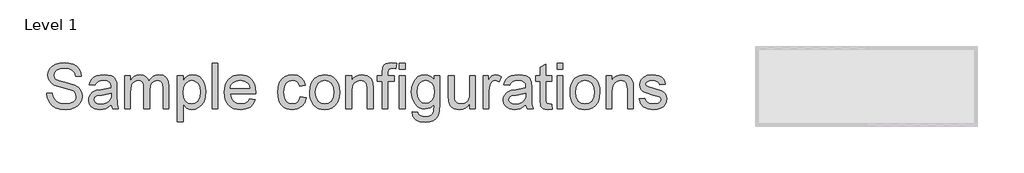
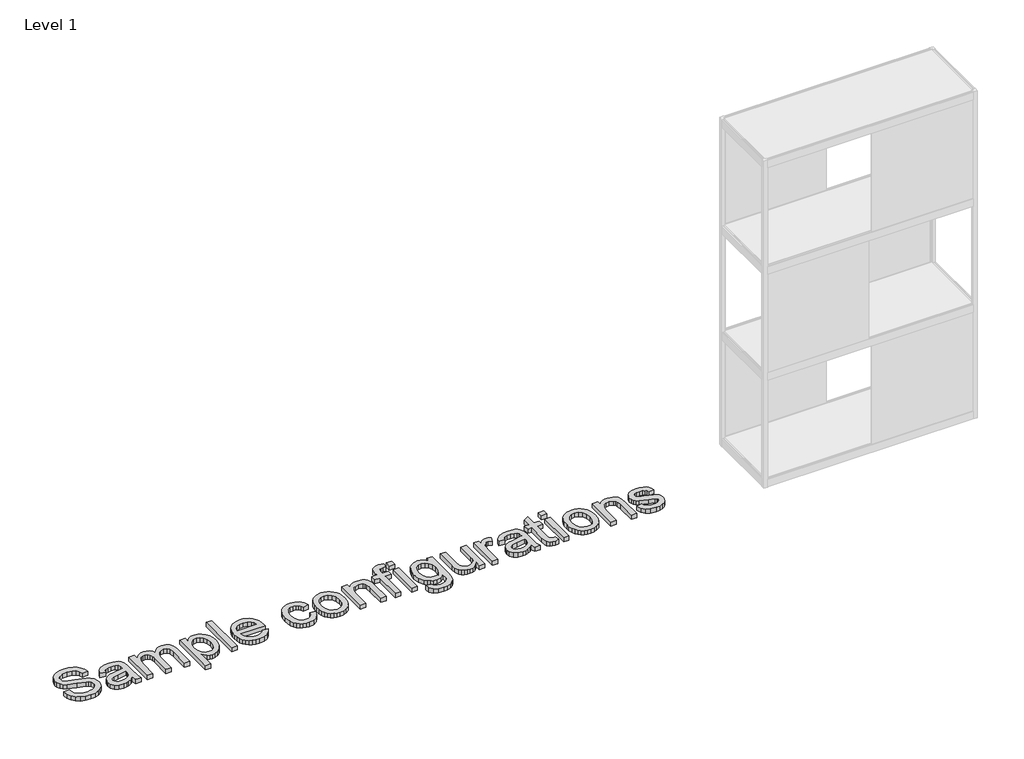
# One storey, part 2 of 5: 1 proxy.
"""IFC4 building model written with IfcOpenShell, lengths in millimetres."""

import ifcopenshell
import ifcopenshell.guid

model = None  # the IFC model being written
_history = None  # IfcOwnerHistory: only IFC2X3 demands one
_inside = {}  # id of a spatial element -> (the spatial element, [elements in it])
_under = {}  # id of a project, library or spatial element -> (it, [spatial elements below it])
_declared = {}  # id of a project -> (the project, [libraries it declares])
_typed = {}  # id of a type object -> (the type object, [elements of that type])
_made_of = {}  # id of a material, layer set ... -> (it, [elements and type objects made of it])


def new_model(schema):
    """Start an empty IFC model of exactly this schema.

    Asked for "IFC4X3", IfcOpenShell would pick the latest addendum, in which some entities
    have other attributes; the version numbers below select the first issue.
    IFC2X3 requires an IfcOwnerHistory on every rooted entity: one is made here for all.
    """
    global model, _history
    if schema == "IFC4X3":
        model = ifcopenshell.file(schema_version=(4, 3, 0, 0))
    else:
        model = ifcopenshell.file(schema=schema)
    _inside.clear()
    _under.clear()
    _declared.clear()
    _typed.clear()
    _made_of.clear()
    _history = None
    if model.schema == "IFC2X3":
        org = make("IfcOrganization", Name="unknown")
        user = make(
            "IfcPersonAndOrganization",
            ThePerson=make("IfcPerson", FamilyName="unknown"),
            TheOrganization=org,
        )
        app = make(
            "IfcApplication",
            ApplicationDeveloper=org,
            Version="unknown",
            ApplicationFullName="unknown",
            ApplicationIdentifier="unknown",
        )
        _history = make(
            "IfcOwnerHistory",
            OwningUser=user,
            OwningApplication=app,
            ChangeAction="ADDED",
            CreationDate=0,
        )
    return model


def make(cls, **values):
    """One entity of the class cls with the attributes given. An attribute that is None is left unset."""
    return model.create_entity(
        cls, **{name: value for name, value in values.items() if value is not None}
    )


def rooted(cls, **values):
    """An entity with a GlobalId (a new one), such as an element, a storey or a relation."""
    return make(cls, GlobalId=ifcopenshell.guid.new(), OwnerHistory=_history, **values)


def si_unit(unit_type, name, prefix=None):
    """IfcSIUnit, for example si_unit("LENGTHUNIT", "METRE", prefix="MILLI")."""
    return make("IfcSIUnit", UnitType=unit_type, Prefix=prefix, Name=name)


def assignment(units):
    """IfcUnitAssignment: the units of a project."""
    return None if units is None else make("IfcUnitAssignment", Units=units)


def point(xyz):
    """IfcCartesianPoint."""
    return None if xyz is None else make("IfcCartesianPoint", Coordinates=xyz)


def direction(xyz):
    """IfcDirection."""
    return None if xyz is None else make("IfcDirection", DirectionRatios=xyz)


def frame(location, z_axis=None, x_axis=None):
    """IfcAxis2Placement3D, a coordinate frame: its origin and axes. An axis left out is left unset."""
    return make(
        "IfcAxis2Placement3D",
        Location=point(location),
        Axis=direction(z_axis),
        RefDirection=direction(x_axis),
    )


def origin():
    """The frame at (0, 0, 0) with its axes left unset."""
    return frame((0.0, 0.0, 0.0))


def origin_with_axes():
    """The frame at (0, 0, 0) with the z axis (0, 0, 1) and the x axis (1, 0, 0) written out."""
    return frame((0.0, 0.0, 0.0), z_axis=(0.0, 0.0, 1.0), x_axis=(1.0, 0.0, 0.0))


def place(relative_to, where):
    """IfcLocalPlacement: puts the frame where relative to a parent placement (None: the world)."""
    return make(
        "IfcLocalPlacement", PlacementRelTo=relative_to, RelativePlacement=where
    )


def context(
    kind, dimensions, precision=None, world=None, true_north=None, identifier=None
):
    """IfcGeometricRepresentationContext, for example the 3D "Model" context."""
    return make(
        "IfcGeometricRepresentationContext",
        ContextIdentifier=identifier,
        ContextType=kind,
        CoordinateSpaceDimension=dimensions,
        Precision=precision,
        WorldCoordinateSystem=world,
        TrueNorth=true_north,
    )


def project(units=None, contexts=None):
    """IfcProject with its units and contexts."""
    return rooted(
        "IfcProject",
        Name="project",
        RepresentationContexts=contexts,
        UnitsInContext=assignment(units),
    )


def spatial(cls, under=None, at=None, **own):
    """A site, building, storey or space (cls), placed at a placement, below another one or the project."""
    s = rooted(cls, ObjectPlacement=at, **own)
    if under is not None:
        _under.setdefault(under.id(), (under, []))[1].append(s)
    return s


def polyline(points):
    """IfcPolyline through the points."""
    return make("IfcPolyline", Points=[point(p) for p in points])


def outline(outer, holes=None, kind="AREA"):
    """IfcArbitraryClosedProfileDef: a profile drawn as a closed curve; with holes, ...WithVoids."""
    if holes is None:
        return make("IfcArbitraryClosedProfileDef", ProfileType=kind, OuterCurve=outer)
    return make(
        "IfcArbitraryProfileDefWithVoids",
        ProfileType=kind,
        OuterCurve=outer,
        InnerCurves=holes,
    )


def extrude(swept, where, along, depth):
    """IfcExtrudedAreaSolid: the profile swept, set in the frame where, extruded along a direction by depth."""
    return make(
        "IfcExtrudedAreaSolid",
        SweptArea=swept,
        Position=where,
        ExtrudedDirection=direction(along),
        Depth=depth,
    )


def shape(context_of_items, identifier, shape_type, items):
    """IfcShapeRepresentation: the items that make up one representation, for example the "Body"."""
    return make(
        "IfcShapeRepresentation",
        ContextOfItems=context_of_items,
        RepresentationIdentifier=identifier,
        RepresentationType=shape_type,
        Items=items,
    )


def made_of(thing, what):
    """Note that an element or type object is made of a material, layer set ...; save() writes the relation."""
    if what is not None:
        _made_of.setdefault(what.id(), (what, []))[1].append(thing)
    return thing


def element(
    cls,
    number,
    at=None,
    inside=None,
    cuts=None,
    type_object=None,
    material=None,
    context=None,
    identifier="Body",
    shape_type=None,
    held_by="IfcProductDefinitionShape",
    body=None,
    shapes=None,
    **own,
):
    """One element of the class cls, such as IfcWall. Its Tag is "e" and its number.

    at: its placement. inside: the storey or other place that contains it. cuts: it is an
    opening in that element (IfcRelVoidsElement). A single representation is given by context,
    identifier, shape_type and body (its items); several are given by shapes. held_by: the class
    of the entity that holds the representations. save() writes the other relations.
    """
    e = rooted(cls, Tag="e%d" % number, ObjectPlacement=at, **own)
    if body is not None:
        shapes = [shape(context, identifier, shape_type, body)]
    if shapes is not None:
        e.Representation = make(held_by, Representations=shapes)
    if inside is not None:
        _inside.setdefault(inside.id(), (inside, []))[1].append(e)
    if cuts is not None:
        rooted(
            "IfcRelVoidsElement", RelatingBuildingElement=cuts, RelatedOpeningElement=e
        )
    if type_object is not None:
        _typed.setdefault(type_object.id(), (type_object, []))[1].append(e)
    return made_of(e, material)


def aggregate(whole, parts):
    """IfcRelAggregates: a whole, such as a stair, and the parts it consists of."""
    return rooted("IfcRelAggregates", RelatingObject=whole, RelatedObjects=parts)


def save(model, path):
    """Write the relations noted so far, then the file.

    IfcRelAggregates (storeys below a building ...), IfcRelContainedInSpatialStructure (elements
    in a storey), IfcRelDefinesByType, IfcRelAssociatesMaterial and IfcRelDeclares: one each for
    every whole, place, type object, material and project.
    """
    for whole, parts in _under.values():
        aggregate(whole, parts)
    for where, things in _inside.values():
        rooted(
            "IfcRelContainedInSpatialStructure",
            RelatedElements=things,
            RelatingStructure=where,
        )
    for kind, things in _typed.values():
        rooted("IfcRelDefinesByType", RelatedObjects=things, RelatingType=kind)
    for what, things in _made_of.values():
        rooted("IfcRelAssociatesMaterial", RelatedObjects=things, RelatingMaterial=what)
    for by, libraries in _declared.values():
        rooted("IfcRelDeclares", RelatingContext=by, RelatedDefinitions=libraries)
    model.write(path)


model = new_model("IFC4")

# Units and contexts
model_context = context("Model", 3, world=origin())
ifc_project = project(units=[si_unit("LENGTHUNIT", "METRE", prefix="MILLI")], contexts=[model_context])

# Site, building, storey
site = spatial("IfcSite", under=ifc_project)
building = spatial("IfcBuilding", under=site)
storey = spatial("IfcBuildingStorey", under=building, Name="Level 1", Elevation=0.0)

# Proxy
placement = place(None, origin())
element("IfcBuildingElementProxy", 1, Name="24\" Arial", ObjectType="24\" Arial", at=placement, inside=storey, context=model_context, shape_type="SweptSolid", body=[
    extrude(outline(polyline([(-17651.1280918, -1837.5746399), (-17619.8665533, -1837.5746399), (-17616.2794139, -1854.9226567), (-17609.7920341, -1868.8667072), (-17599.6717216, -1879.9334139), (-17585.1857841, -1888.6493995), (-17567.4790533, -1894.3048682), (-17547.696361, -1896.1900245), (-17530.2796543, -1894.7628009), (-17515.0304956, -1890.4811303), (-17502.6739451, -1883.7037264), (-17493.9350629, -1874.7893033), (-17488.7375269, -1864.5545077), (-17487.0050149, -1853.815986), (-17492.1949187, -1834.3080533), (-17500.1018899, -1826.5918875), (-17513.4429956, -1820.1121399), (-17558.9615052, -1808.175361), (-17607.9603033, -1792.7582937), (-17623.5223826, -1782.2411062), (-17634.5509283, -1769.495313), (-17641.1222624, -1754.7956735), (-17643.3127072, -1738.4169476), (-17640.6032721, -1720.1072721), (-17632.4749668, -1703.0340149), (-17619.1414932, -1688.5633418), (-17600.8165533, -1678.0614187), (-17578.8205197, -1671.6732577), (-17554.4737649, -1669.5438707), (-17528.0968418, -1671.7724764), (-17505.0170341, -1678.4582937), (-17486.0586206, -1689.4639428), (-17472.0458802, -1704.6520437), (-17463.1772504, -1723.0762024), (-17459.6511687, -1743.7900245), (-17490.9127072, -1743.7900245), (-17496.6521302, -1725.1368995), (-17508.6194379, -1711.6736783), (-17527.3183562, -1703.5224764), (-17553.252611, -1700.8054091), (-17579.7974427, -1703.4919476), (-17598.0078995, -1711.551563), (-17608.5403514, -1723.4120197), (-17612.0511687, -1737.5010822), (-17609.5630677, -1749.5141832), (-17602.0987649, -1759.176563), (-17584.4530918, -1767.8162264), (-17551.0545341, -1776.639063), (-17495.7362649, -1792.3308899), (-17477.9150509, -1803.6723562), (-17465.4821783, -1817.6698322), (-17458.1781519, -1834.1706735), (-17455.7434764, -1853.022236), (-17458.544498, -1872.2935702), (-17466.9475629, -1890.4200726), (-17480.6092216, -1906.020313), (-17499.1860245, -1917.712861), (-17521.5255076, -1925.0168875), (-17546.4752072, -1927.451563), (-17577.1032721, -1924.8260822), (-17602.3124668, -1916.9496399), (-17622.3928153, -1903.7917072), (-17637.6343418, -1885.3217553), (-17647.418837, -1862.8219957), (-17651.1280918, -1837.5746399)])), origin_with_axes(), (0.0, 0.0, 1.0), 25.4),
    extrude(outline(polyline([(-17295.5280918, -1900.0977168), (-17310.4643298, -1912.9045678), (-17325.843236, -1921.284736), (-17342.0158923, -1925.9098562), (-17359.3333802, -1927.451563), (-17385.4584403, -1923.7423082), (-17404.7297745, -1912.6145437), (-17416.6131278, -1895.7168274), (-17420.5742456, -1874.6977168), (-17419.0783322, -1861.7382216), (-17414.5905918, -1849.9693514), (-17398.868236, -1832.0183899), (-17376.9790533, -1821.7606976), (-17349.9304956, -1817.0592553), (-17295.7112649, -1806.3131014), (-17295.5280918, -1799.3525245), (-17297.6803754, -1785.4008418), (-17304.1372264, -1776.2727168), (-17318.5773706, -1769.495313), (-17338.6958802, -1767.2361783), (-17357.3184764, -1768.739724), (-17370.3237649, -1773.250361), (-17379.1923947, -1781.5923682), (-17385.4050149, -1794.5900245), (-17416.6665533, -1790.6823322), (-17411.2400509, -1773.5861783), (-17403.1422745, -1760.153486), (-17391.617635, -1749.8805293), (-17375.9105437, -1742.2635822), (-17356.7002673, -1737.5468755), (-17334.6660725, -1735.9746399), (-17313.5324788, -1737.3637024), (-17296.7797745, -1741.5308899), (-17284.1484644, -1747.7969356), (-17275.3790533, -1755.4825726), (-17265.7929956, -1776.7001207), (-17264.2665533, -1804.0539668), (-17264.2665533, -1842.9477168), (-17262.6790533, -1897.2585341), (-17256.4511687, -1923.5438707), (-17287.7127072, -1923.5438707), (-17295.5280918, -1900.0977168)]), holes=[polyline([(-17295.5280918, -1837.5746399), (-17345.9617456, -1847.1606976), (-17372.8576591, -1852.228486), (-17385.0386687, -1860.4712745), (-17389.3127072, -1872.4996399), (-17386.9848826, -1881.7956735), (-17380.0014091, -1889.4126207), (-17368.5149307, -1894.4956735), (-17352.6780918, -1896.1900245), (-17335.8872264, -1894.3201327), (-17321.0502072, -1888.7104572), (-17309.0218418, -1880.4447721), (-17300.6569379, -1870.6068514), (-17296.9476831, -1860.4712745), (-17295.7112649, -1846.4280053), (-17295.5280918, -1837.5746399)])]), origin_with_axes(), (0.0, 0.0, 1.0), 25.4),
    extrude(outline(polyline([(-17221.2819379, -1923.5438707), (-17221.2819379, -1739.8823322), (-17190.0203995, -1739.8823322), (-17190.0203995, -1770.1058899), (-17180.6175149, -1756.2228971), (-17168.5280918, -1745.3469957), (-17154.1642697, -1738.3177288), (-17137.9381879, -1735.9746399), (-17120.55201, -1738.3635221), (-17106.6155918, -1745.5301687), (-17096.2052552, -1757.0013827), (-17089.3973225, -1772.3039668), (-17078.0024307, -1756.4098863), (-17065.0047745, -1745.0569716), (-17050.4043538, -1738.2452228), (-17034.2011687, -1735.9746399), (-17010.7015894, -1739.7525846), (-16993.3230437, -1751.0864187), (-16982.5845221, -1770.2814307), (-16979.0050149, -1797.6429091), (-16979.0050149, -1923.5438707), (-17010.2665533, -1923.5438707), (-17010.2665533, -1811.0756014), (-17013.1667937, -1784.973438), (-17023.6687168, -1772.1207937), (-17041.5280918, -1767.2361783), (-17058.4639692, -1770.3653851), (-17072.2706399, -1779.7530053), (-17081.4521903, -1796.0401447), (-17084.5127072, -1819.8679091), (-17084.5127072, -1923.5438707), (-17115.7742456, -1923.5438707), (-17115.7742456, -1807.595313), (-17117.5830798, -1789.919111), (-17123.0095822, -1777.3106976), (-17132.5574788, -1769.7548082), (-17146.7304956, -1767.2361783), (-17158.7741254, -1768.9152649), (-17169.871361, -1773.9525245), (-17179.0300149, -1782.2258418), (-17185.2578995, -1793.6131014), (-17190.0203995, -1830.9193514), (-17190.0203995, -1923.5438707), (-17221.2819379, -1923.5438707)])), origin_with_axes(), (0.0, 0.0, 1.0), 25.4),
    extrude(outline(polyline([(-16932.1127072, -1993.8823322), (-16932.1127072, -1739.8823322), (-16900.8511687, -1739.8823322), (-16900.8511687, -1770.5332937), (-16890.6545341, -1755.4138827), (-16879.2367456, -1744.6143033), (-16865.9261687, -1738.1345557), (-16850.0511687, -1735.9746399), (-16828.9099427, -1738.9969957), (-16810.4247264, -1748.064063), (-16795.3740052, -1762.6263226), (-16784.5362649, -1782.1342553), (-16777.9878274, -1805.1682697), (-16775.8050149, -1830.3087745), (-16778.2702192, -1857.0444115), (-16785.6658322, -1880.9561303), (-16797.7552552, -1900.8304091), (-16814.3018899, -1915.4537264), (-16833.573224, -1924.4521038), (-16853.8367456, -1927.451563), (-16868.2081999, -1925.4442913), (-16881.0379475, -1919.4224764), (-16900.8511687, -1899.1207937), (-16900.8511687, -1993.8823322), (-16932.1127072, -1993.8823322)]), holes=[polyline([(-16900.8511687, -1833.178486), (-16897.470099, -1861.2039668), (-16887.3268899, -1880.803486), (-16872.360123, -1892.3433899), (-16854.5083802, -1896.1900245), (-16836.3666134, -1892.2060101), (-16821.018236, -1880.2539668), (-16810.554474, -1859.9370197), (-16807.0665533, -1830.8582937), (-16810.4705197, -1802.9854572), (-16820.6824187, -1783.1111783), (-16835.6262889, -1771.2049283), (-16853.2261687, -1767.2361783), (-16870.8947384, -1771.4567913), (-16886.4110245, -1784.1186303), (-16897.2411326, -1804.8248202), (-16900.8511687, -1833.178486)])]), origin_with_axes(), (0.0, 0.0, 1.0), 25.4),
    extrude(outline(polyline([(-16740.6357841, -1923.5438707), (-16740.6357841, -1673.451563), (-16709.3742456, -1673.451563), (-16709.3742456, -1923.5438707), (-16740.6357841, -1923.5438707)])), origin_with_axes(), (0.0, 0.0, 1.0), 25.4),
    extrude(outline(polyline([(-16533.8944379, -1868.8361783), (-16503.2434764, -1872.7438707), (-16514.2872865, -1895.8389428), (-16531.9100629, -1913.1030053), (-16555.7149307, -1923.8644235), (-16585.3050149, -1927.451563), (-16604.7022805, -1925.9041321), (-16621.9854235, -1921.2618394), (-16637.1544439, -1913.524685), (-16650.2093418, -1902.6926687), (-16660.7074487, -1889.0672631), (-16668.2060966, -1872.9499404), (-16672.7052853, -1854.3407006), (-16674.2050149, -1833.2395437), (-16672.6900209, -1811.422867), (-16668.1450389, -1792.1935101), (-16660.5700689, -1775.5514728), (-16649.965111, -1761.4967553), (-16636.9445581, -1750.3308298), (-16622.1228033, -1742.3551687), (-16605.4998466, -1737.5697721), (-16587.0756879, -1735.9746399), (-16569.2449337, -1737.565956), (-16553.1199788, -1742.3399043), (-16538.7008231, -1750.2964848), (-16525.9874668, -1761.4356976), (-16515.6095671, -1775.4598863), (-16508.1967817, -1792.0713947), (-16503.7491104, -1811.2702228), (-16502.2665533, -1833.0563707), (-16502.4497264, -1841.4823322), (-16642.9434764, -1841.4823322), (-16637.5322384, -1864.8826928), (-16624.961986, -1882.0856976), (-16606.8202192, -1892.6639428), (-16584.6944379, -1896.1900245), (-16568.0562168, -1894.5567312), (-16554.0434764, -1889.6568514), (-16542.6562168, -1881.1850966), (-16533.8944379, -1868.8361783)]), holes=[polyline([(-16642.9434764, -1810.2207937), (-16533.5280918, -1810.2207937), (-16537.756337, -1793.704688), (-16546.0449187, -1781.8900245), (-16564.2706399, -1770.8996399), (-16587.1978033, -1767.2361783), (-16608.2703394, -1770.1593154), (-16625.6946783, -1778.9287264), (-16637.806998, -1792.5980173), (-16642.9434764, -1810.2207937)])]), origin_with_axes(), (0.0, 0.0, 1.0), 25.4),
    extrude(outline(polyline([(-16256.0819379, -1857.1131014), (-16224.8203995, -1861.0207937), (-16233.536385, -1888.8249404), (-16249.915111, -1909.8364187), (-16272.4148706, -1923.0477769), (-16299.4939572, -1927.451563), (-16317.0270551, -1925.9155804), (-16332.7475028, -1921.3076327), (-16346.6553003, -1913.6277198), (-16358.7504475, -1902.8758418), (-16368.5406669, -1889.2542523), (-16375.5336807, -1872.9652048), (-16381.1280918, -1832.384736), (-16378.7392096, -1804.565325), (-16371.5725629, -1780.4551687), (-16359.5136687, -1760.9853971), (-16342.4480437, -1747.0871399), (-16322.0318778, -1738.7527649), (-16299.921361, -1735.9746399), (-16273.5062769, -1739.7907457), (-16252.3879475, -1751.239063), (-16237.2380076, -1769.7090149), (-16228.7280918, -1794.5900245), (-16259.9896302, -1798.4977168), (-16265.6603634, -1784.8589548), (-16274.4908322, -1775.0820918), (-16285.9925749, -1769.1976567), (-16299.6771302, -1767.2361783), (-16319.8795942, -1771.0980774), (-16335.9148706, -1782.6837745), (-16346.3786326, -1802.619111), (-16349.8665533, -1831.5299283), (-16346.4549548, -1860.8299884), (-16336.2201591, -1880.8340149), (-16320.4749067, -1892.3510221), (-16300.5319379, -1896.1900245), (-16284.3440173, -1893.7935101), (-16271.0716014, -1886.6039668), (-16261.4168538, -1874.4382216), (-16256.0819379, -1857.1131014)])), origin_with_axes(), (0.0, 0.0, 1.0), 25.4),
    extrude(outline(polyline([(-16205.2819379, -1831.7131014), (-16203.5914031, -1807.9273142), (-16198.5197985, -1787.4310101), (-16190.0671242, -1770.2241892), (-16178.2333802, -1756.3068514), (-16153.1691975, -1741.0576928), (-16123.1593418, -1735.9746399), (-16105.9124518, -1737.5220708), (-16090.3179355, -1742.1643634), (-16076.3757931, -1749.9015179), (-16064.0860245, -1760.7335341), (-16054.0553905, -1774.294066), (-16046.8906519, -1790.2167673), (-16042.5918087, -1808.5016381), (-16041.158861, -1829.1486783), (-16043.6927552, -1860.7307697), (-16051.2944379, -1884.772236), (-16063.7425749, -1902.7766231), (-16080.8158322, -1916.2474764), (-16101.0946182, -1924.6505413), (-16123.1593418, -1927.451563), (-16140.6580948, -1925.9098562), (-16156.397623, -1921.284736), (-16170.3779265, -1913.5762024), (-16182.5990052, -1902.7842553), (-16192.5227883, -1889.0920678), (-16199.6112048, -1872.682813), (-16203.8642546, -1853.5564908), (-16205.2819379, -1831.7131014)]), holes=[polyline([(-16174.0203995, -1831.6520437), (-16170.4027312, -1859.9446519), (-16159.5497264, -1880.1013226), (-16143.2167937, -1892.167849), (-16123.1593418, -1896.1900245), (-16103.1934764, -1892.1449524), (-16086.8910725, -1880.009736), (-16076.0380677, -1859.585938), (-16072.4203995, -1830.6751207), (-16076.0609644, -1803.2067913), (-16086.9826591, -1783.3248803), (-16103.3079596, -1771.2583538), (-16123.1593418, -1767.2361783), (-16143.2167937, -1771.2430894), (-16159.5497264, -1783.2638226), (-16170.4027312, -1803.3747), (-16174.0203995, -1831.6520437)])]), origin_with_axes(), (0.0, 0.0, 1.0), 25.4),
    extrude(outline(polyline([(-16005.9896302, -1923.5438707), (-16005.9896302, -1739.8823322), (-15974.7280918, -1739.8823322), (-15974.7280918, -1765.526563), (-15963.8674548, -1752.5975966), (-15950.8240052, -1743.3626207), (-15935.5977432, -1737.8216351), (-15918.1886687, -1735.9746399), (-15888.6672745, -1741.9277649), (-15876.8984043, -1748.8120197), (-15868.518236, -1757.5585341), (-15859.1458802, -1780.5467553), (-15857.4973225, -1810.770313), (-15857.4973225, -1923.5438707), (-15888.758861, -1923.5438707), (-15888.758861, -1814.9832937), (-15892.3612649, -1787.3241591), (-15897.345099, -1779.0890029), (-15905.0917937, -1772.7008418), (-15926.5535725, -1767.2361783), (-15944.863248, -1770.3043274), (-15960.4711206, -1779.5087745), (-15971.163849, -1797.2918274), (-15974.7280918, -1826.0957937), (-15974.7280918, -1923.5438707), (-16005.9896302, -1923.5438707)])), origin_with_axes(), (0.0, 0.0, 1.0), 25.4),
    extrude(outline(polyline([(-15806.6973225, -1923.5438707), (-15806.6973225, -1771.1438707), (-15834.0511687, -1771.1438707), (-15834.0511687, -1739.8823322), (-15806.6973225, -1739.8823322), (-15806.6973225, -1721.3818514), (-15803.4002072, -1695.3102168), (-15797.1112649, -1684.9151447), (-15787.4030918, -1676.6876207), (-15773.8177552, -1671.3298082), (-15755.8973225, -1669.5438707), (-15727.3833802, -1672.9631014), (-15731.9627072, -1702.2707937), (-15749.9747264, -1700.8054091), (-15761.8580798, -1702.1028851), (-15769.6658322, -1705.995313), (-15773.9932961, -1713.429087), (-15775.4357841, -1725.3506014), (-15775.4357841, -1739.8823322), (-15740.2665533, -1739.8823322), (-15740.2665533, -1771.1438707), (-15775.4357841, -1771.1438707), (-15775.4357841, -1923.5438707), (-15806.6973225, -1923.5438707)])), origin_with_axes(), (0.0, 0.0, 1.0), 25.4),
    extrude(outline(polyline([(-15712.9127072, -1923.5438707), (-15712.9127072, -1739.8823322), (-15681.6511687, -1739.8823322), (-15681.6511687, -1923.5438707), (-15712.9127072, -1923.5438707)])), origin_with_axes(), (0.0, 0.0, 1.0), 25.4),
    extrude(outline(polyline([(-15712.9127072, -1704.7131014), (-15712.9127072, -1673.451563), (-15681.6511687, -1673.451563), (-15681.6511687, -1704.7131014), (-15712.9127072, -1704.7131014)])), origin_with_axes(), (0.0, 0.0, 1.0), 25.4),
    extrude(outline(polyline([(-15642.5742456, -1939.1746399), (-15611.3127072, -1943.0823322), (-15607.8629475, -1952.851563), (-15601.1771302, -1959.5679091), (-15588.034462, -1964.7883418), (-15570.8314572, -1966.528486), (-15552.4836206, -1964.5593755), (-15538.8372264, -1958.6520437), (-15529.3732841, -1949.1881014), (-15523.5728033, -1936.5491591), (-15521.4357841, -1900.0977168), (-15543.4470822, -1917.6823322), (-15570.2819379, -1923.5438707), (-15587.421977, -1921.8380714), (-15602.5127673, -1916.7206735), (-15615.5543087, -1908.1916771), (-15626.5466014, -1896.2510822), (-15641.4981038, -1866.2412264), (-15646.4819379, -1830.797236), (-15644.2456999, -1805.5575125), (-15637.536986, -1782.3479572), (-15626.5923947, -1762.6797481), (-15611.6485245, -1748.064063), (-15593.2167336, -1738.9969957), (-15571.8083802, -1735.9746399), (-15557.188879, -1737.6842553), (-15543.9202793, -1742.8131014), (-15532.002581, -1751.3611783), (-15521.4357841, -1763.328486), (-15521.4357841, -1739.8823322), (-15490.1742456, -1739.8823322), (-15490.1742456, -1898.4491591), (-15492.3112649, -1935.0608779), (-15498.7223225, -1959.1710341), (-15509.7661326, -1975.1605173), (-15525.8014091, -1987.4102168), (-15546.4770701, -1995.1950726), (-15571.4420341, -1997.7900245), (-15600.5283923, -1994.1341952), (-15623.4326591, -1983.1667072), (-15638.1246663, -1964.8570317), (-15642.5742456, -1939.1746399)]), holes=[polyline([(-15615.2203995, -1828.6602168), (-15611.885123, -1857.3344356), (-15601.8792937, -1877.048438), (-15586.8362048, -1888.4738586), (-15568.3891495, -1892.2823322), (-15550.079474, -1888.4967553), (-15534.9600629, -1877.1400245), (-15524.8168538, -1857.6778851), (-15521.4357841, -1829.5760822), (-15524.9160725, -1802.474099), (-15535.3569379, -1782.9585341), (-15550.6976831, -1771.1667673), (-15568.877611, -1767.2361783), (-15586.7293538, -1771.1057096), (-15601.6961206, -1782.7143033), (-15611.8393298, -1801.9398442), (-15615.2203995, -1828.6602168)])]), origin_with_axes(), (0.0, 0.0, 1.0), 25.4),
    extrude(outline(polyline([(-15326.0511687, -1923.5438707), (-15326.0511687, -1891.9770437), (-15337.3621062, -1907.4971459), (-15350.5353033, -1918.5829332), (-15365.57076, -1925.2344055), (-15382.4684764, -1927.451563), (-15397.6947384, -1925.8945918), (-15411.8677552, -1921.2236783), (-15423.7587408, -1914.2020437), (-15432.1389091, -1905.5929091), (-15441.4502072, -1882.5741591), (-15443.2819379, -1853.5106976), (-15443.2819379, -1739.8823322), (-15412.0203995, -1739.8823322), (-15412.0203995, -1838.7957937), (-15410.127611, -1870.6679091), (-15405.5711807, -1881.2995798), (-15397.7634283, -1889.3820918), (-15387.2233442, -1894.4880413), (-15374.4699187, -1896.1900245), (-15360.9838009, -1894.4498803), (-15348.3677552, -1889.2294476), (-15337.9650509, -1881.0095557), (-15331.1189572, -1870.2710341), (-15327.3181158, -1855.5637625), (-15326.0511687, -1835.4376207), (-15326.0511687, -1739.8823322), (-15294.7896302, -1739.8823322), (-15294.7896302, -1923.5438707), (-15326.0511687, -1923.5438707)])), origin_with_axes(), (0.0, 0.0, 1.0), 25.4),
    extrude(outline(polyline([(-15251.8050149, -1923.5438707), (-15251.8050149, -1739.8823322), (-15224.4511687, -1739.8823322), (-15224.4511687, -1767.0530053), (-15214.3461206, -1751.3001207), (-15205.0348225, -1742.0193514), (-15185.496361, -1735.9746399), (-15169.9266495, -1738.3864187), (-15154.1127072, -1745.6217553), (-15164.5535725, -1773.647236), (-15186.5343418, -1767.2361783), (-15195.8685365, -1768.7778851), (-15204.2105437, -1773.4030053), (-15215.4756879, -1790.4991591), (-15220.5434764, -1827.0116591), (-15220.5434764, -1923.5438707), (-15251.8050149, -1923.5438707)])), origin_with_axes(), (0.0, 0.0, 1.0), 25.4),
    extrude(outline(polyline([(-15017.3434764, -1900.0977168), (-15032.2797144, -1912.9045678), (-15047.6586206, -1921.284736), (-15063.8312769, -1925.9098562), (-15081.1487649, -1927.451563), (-15107.2738249, -1923.7423082), (-15126.5451591, -1912.6145437), (-15138.4285124, -1895.7168274), (-15142.3896302, -1874.6977168), (-15140.8937168, -1861.7382216), (-15136.4059764, -1849.9693514), (-15120.6836206, -1832.0183899), (-15098.7944379, -1821.7606976), (-15071.7458802, -1817.0592553), (-15017.5266495, -1806.3131014), (-15017.3434764, -1799.3525245), (-15019.49576, -1785.4008418), (-15025.952611, -1776.2727168), (-15040.3927552, -1769.495313), (-15060.5112649, -1767.2361783), (-15079.133861, -1768.739724), (-15092.1391495, -1773.250361), (-15101.0077793, -1781.5923682), (-15107.2203995, -1794.5900245), (-15138.4819379, -1790.6823322), (-15133.0554355, -1773.5861783), (-15124.9576591, -1760.153486), (-15113.4330197, -1749.8805293), (-15097.7259283, -1742.2635822), (-15078.5156519, -1737.5468755), (-15056.4814572, -1735.9746399), (-15035.3478634, -1737.3637024), (-15018.5951591, -1741.5308899), (-15005.963849, -1747.7969356), (-14997.1944379, -1755.4825726), (-14987.6083802, -1776.7001207), (-14986.0819379, -1804.0539668), (-14986.0819379, -1842.9477168), (-14984.4944379, -1897.2585341), (-14978.2665533, -1923.5438707), (-15009.5280918, -1923.5438707), (-15017.3434764, -1900.0977168)]), holes=[polyline([(-15017.3434764, -1837.5746399), (-15067.7771302, -1847.1606976), (-15094.6730437, -1852.228486), (-15106.8540533, -1860.4712745), (-15111.1280918, -1872.4996399), (-15108.8002673, -1881.7956735), (-15101.8167937, -1889.4126207), (-15090.3303153, -1894.4956735), (-15074.4934764, -1896.1900245), (-15057.702611, -1894.3201327), (-15042.8655918, -1888.7104572), (-15030.8372264, -1880.4447721), (-15022.4723225, -1870.6068514), (-15018.7630677, -1860.4712745), (-15017.5266495, -1846.4280053), (-15017.3434764, -1837.5746399)])]), origin_with_axes(), (0.0, 0.0, 1.0), 25.4),
    extrude(outline(polyline([(-14876.6665533, -1897.472236), (-14872.758861, -1924.459736), (-14896.1439572, -1927.451563), (-14911.148885, -1926.154087), (-14922.3377072, -1922.2616591), (-14935.4040533, -1908.6457937), (-14939.1896302, -1873.1712745), (-14939.1896302, -1771.1438707), (-14962.6357841, -1771.1438707), (-14962.6357841, -1739.8823322), (-14939.1896302, -1739.8823322), (-14939.1896302, -1695.2491591), (-14907.9280918, -1676.8707937), (-14907.9280918, -1739.8823322), (-14876.6665533, -1739.8823322), (-14876.6665533, -1771.1438707), (-14907.9280918, -1771.1438707), (-14907.9280918, -1872.2554091), (-14906.2795341, -1888.3746399), (-14900.936986, -1894.0835341), (-14890.2824187, -1896.1900245), (-14876.6665533, -1897.472236)])), origin_with_axes(), (0.0, 0.0, 1.0), 25.4),
    extrude(outline(polyline([(-14845.4050149, -1923.5438707), (-14845.4050149, -1739.8823322), (-14814.1434764, -1739.8823322), (-14814.1434764, -1923.5438707), (-14845.4050149, -1923.5438707)])), origin_with_axes(), (0.0, 0.0, 1.0), 25.4),
    extrude(outline(polyline([(-14845.4050149, -1704.7131014), (-14845.4050149, -1673.451563), (-14814.1434764, -1673.451563), (-14814.1434764, -1704.7131014), (-14845.4050149, -1704.7131014)])), origin_with_axes(), (0.0, 0.0, 1.0), 25.4),
    extrude(outline(polyline([(-14775.0665533, -1831.7131014), (-14773.3760185, -1807.9273142), (-14768.3044139, -1787.4310101), (-14759.8517396, -1770.2241892), (-14748.0179956, -1756.3068514), (-14722.9538129, -1741.0576928), (-14692.9439572, -1735.9746399), (-14675.6970671, -1737.5220708), (-14660.1025509, -1742.1643634), (-14646.1604085, -1749.9015179), (-14633.8706399, -1760.7335341), (-14623.8400058, -1774.294066), (-14616.6752673, -1790.2167673), (-14612.3764241, -1808.5016381), (-14610.9434764, -1829.1486783), (-14613.4773706, -1860.7307697), (-14621.0790533, -1884.772236), (-14633.5271903, -1902.7766231), (-14650.6004475, -1916.2474764), (-14670.8792336, -1924.6505413), (-14692.9439572, -1927.451563), (-14710.4427102, -1925.9098562), (-14726.1822384, -1921.284736), (-14740.1625419, -1913.5762024), (-14752.3836206, -1902.7842553), (-14762.3074037, -1889.0920678), (-14769.3958201, -1872.682813), (-14773.64887, -1853.5564908), (-14775.0665533, -1831.7131014)]), holes=[polyline([(-14743.8050149, -1831.6520437), (-14740.1873466, -1859.9446519), (-14729.3343418, -1880.1013226), (-14713.0014091, -1892.167849), (-14692.9439572, -1896.1900245), (-14672.9780918, -1892.1449524), (-14656.6756879, -1880.009736), (-14645.8226831, -1859.585938), (-14642.2050149, -1830.6751207), (-14645.8455798, -1803.2067913), (-14656.7672745, -1783.3248803), (-14673.0925749, -1771.2583538), (-14692.9439572, -1767.2361783), (-14713.0014091, -1771.2430894), (-14729.3343418, -1783.2638226), (-14740.1873466, -1803.3747), (-14743.8050149, -1831.6520437)])]), origin_with_axes(), (0.0, 0.0, 1.0), 25.4),
    extrude(outline(polyline([(-14575.7742456, -1923.5438707), (-14575.7742456, -1739.8823322), (-14544.5127072, -1739.8823322), (-14544.5127072, -1765.526563), (-14533.6520701, -1752.5975966), (-14520.6086206, -1743.3626207), (-14505.3823586, -1737.8216351), (-14487.9732841, -1735.9746399), (-14458.4518899, -1741.9277649), (-14446.6830197, -1748.8120197), (-14438.3028514, -1757.5585341), (-14428.9304956, -1780.5467553), (-14427.2819379, -1810.770313), (-14427.2819379, -1923.5438707), (-14458.5434764, -1923.5438707), (-14458.5434764, -1814.9832937), (-14462.1458802, -1787.3241591), (-14467.1297144, -1779.0890029), (-14474.8764091, -1772.7008418), (-14496.3381879, -1767.2361783), (-14514.6478634, -1770.3043274), (-14530.255736, -1779.5087745), (-14540.9484644, -1797.2918274), (-14544.5127072, -1826.0957937), (-14544.5127072, -1923.5438707), (-14575.7742456, -1923.5438707)])), origin_with_axes(), (0.0, 0.0, 1.0), 25.4),
    extrude(outline(polyline([(-14396.0203995, -1868.8361783), (-14364.758861, -1864.928486), (-14359.8284524, -1878.3001207), (-14350.2881879, -1888.1304091), (-14336.07701, -1894.1751207), (-14317.133861, -1896.1900245), (-14298.4196783, -1894.3430293), (-14285.2617456, -1888.8020437), (-14277.4768899, -1880.7729572), (-14274.8819379, -1871.4616591), (-14277.4921543, -1863.4936303), (-14285.3228033, -1857.4183899), (-14317.5002072, -1848.5039668), (-14364.5756879, -1833.2090149), (-14376.4895701, -1825.5233779), (-14385.1216014, -1815.3496399), (-14390.3649307, -1803.3365389), (-14392.1127072, -1790.132813), (-14386.4953995, -1766.8393033), (-14371.1699187, -1749.040986), (-14351.2956399, -1739.7907457), (-14324.3997264, -1735.9746399), (-14304.0522504, -1737.5087144), (-14286.3607841, -1742.110938), (-14272.1343418, -1749.3310101), (-14262.1819379, -1758.7186303), (-14255.5877072, -1770.9683298), (-14251.4357841, -1786.7746399), (-14282.6973225, -1790.6823322), (-14286.6431759, -1780.8444115), (-14294.4509283, -1773.4335341), (-14306.1969019, -1768.7855173), (-14321.9574187, -1767.2361783), (-14339.9083802, -1768.7168274), (-14351.8756879, -1773.1587745), (-14358.6072985, -1779.5698322), (-14360.8511687, -1786.957813), (-14357.1266495, -1796.0554091), (-14345.4646302, -1802.9549283), (-14318.5381879, -1809.6102168), (-14272.6533322, -1824.3251207), (-14260.5333802, -1831.3620197), (-14251.3441975, -1840.9938707), (-14245.551349, -1853.2512024), (-14243.6203995, -1868.1645437), (-14245.8871663, -1883.581611), (-14252.6874668, -1898.082813), (-14263.7618057, -1910.53095), (-14278.8506879, -1919.7888226), (-14297.0764091, -1925.5358779), (-14317.5612649, -1927.451563), (-14349.0822985, -1923.7575726), (-14372.0857841, -1912.6756014), (-14387.4417937, -1894.3277649), (-14396.0203995, -1868.8361783)])), origin_with_axes(), (0.0, 0.0, 1.0), 25.4),
])

save(model, "model.ifc")
